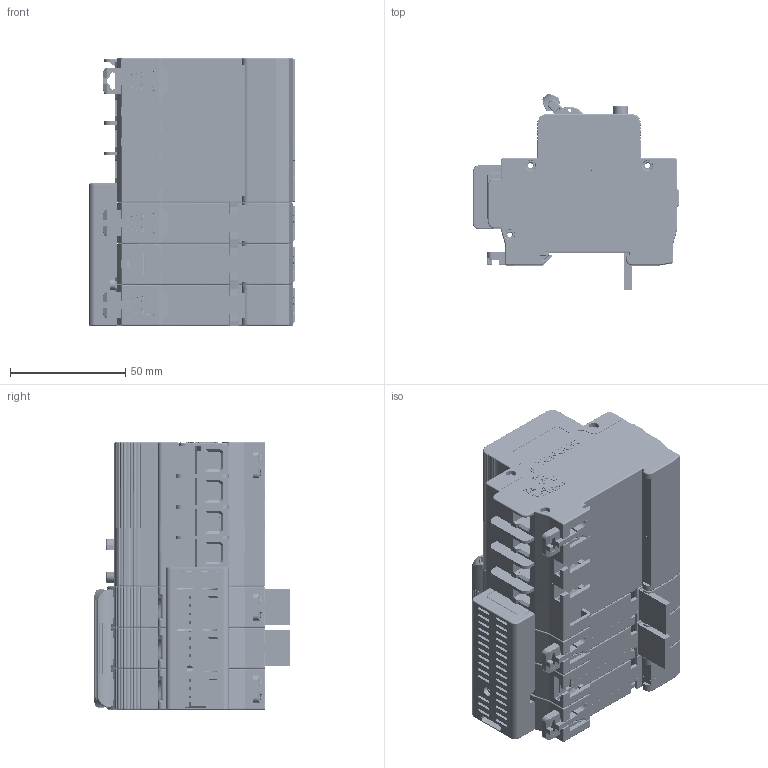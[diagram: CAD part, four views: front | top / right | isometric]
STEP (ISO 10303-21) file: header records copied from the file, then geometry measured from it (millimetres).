
FILE_DESCRIPTION((''),'2;1');
FILE_NAME('2TZD_256_1141_ASM_SW0001','2021-03-26T',('DELL'),(''),'PRO/ENGINEER BY PARAMETRIC TECHNOLOGY CORPORATION, 2017170','PRO/ENGINEER BY PARAMETRIC TECHNOLOGY CORPORATION, 2017170','');
FILE_SCHEMA(('CONFIG_CONTROL_DESIGN'));
Products named in the file (1): 2TZD_256_1141_ASM_SW0001
Bounding box: 89.4 x 85.11 x 116.1 mm (x, y, z)
Volume: 202371.1 mm3; surface area: 228012.3 mm2
Topology: 4 solids, 10 shells, 15005 faces, 42101 edges, 27280 vertices
Faces by surface type: plane 9522, cylinder 3450, torus 829, bspline 490, cone 415, extrusion 182, sphere 117
Entity records: 524361 total; most frequent: CARTESIAN_POINT 138693, ORIENTED_EDGE 83970, DIRECTION 76218, EDGE_CURVE 41985, VECTOR 29718, LINE 29536, VERTEX_POINT 27280, AXIS2_PLACEMENT_3D 23250
